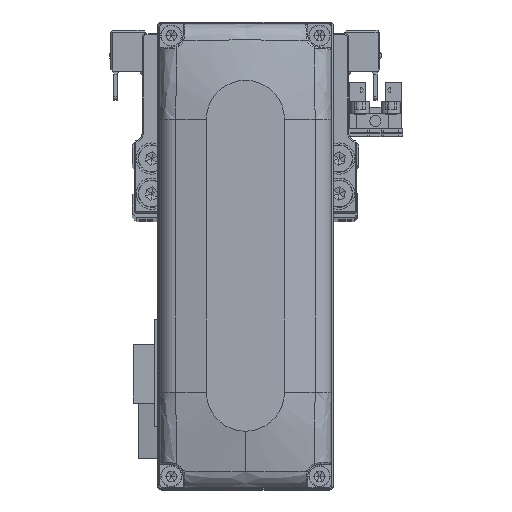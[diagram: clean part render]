
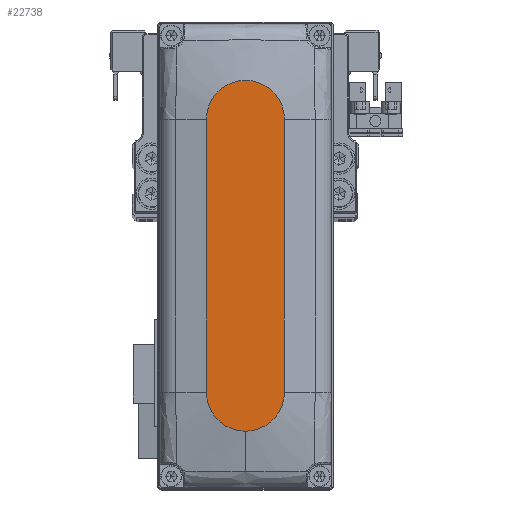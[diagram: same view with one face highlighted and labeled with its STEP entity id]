
A CAD part, top view. The second image highlights one B-rep face of the part: STEP entity #22738.
In plain terms, the highlighted planar face has unit normal (0, 0, 1).
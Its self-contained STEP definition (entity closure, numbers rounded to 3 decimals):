
#1145 = CARTESIAN_POINT ( 'NONE',  ( 45., 0., 28. ) ) ;
#1456 = DIRECTION ( 'NONE',  ( 1., 0., 0. ) ) ;
#2386 = VERTEX_POINT ( 'NONE', #1145 ) ;
#2416 = EDGE_CURVE ( 'NONE', #33428, #38752, #22647, .T. ) ;
#3073 = VERTEX_POINT ( 'NONE', #15283 ) ;
#3219 = CIRCLE ( 'NONE', #25265, 10. ) ;
#3779 = CARTESIAN_POINT ( 'NONE',  ( -35., 10., 28. ) ) ;
#4597 = EDGE_CURVE ( 'NONE', #3073, #2386, #3219, .T. ) ;
#5027 = ORIENTED_EDGE ( 'NONE', *, *, #16543, .T. ) ;
#5452 = AXIS2_PLACEMENT_3D ( 'NONE', #11823, #23846, #35835 ) ;
#6112 = CARTESIAN_POINT ( 'NONE',  ( -35., -10., 28. ) ) ;
#6562 = EDGE_CURVE ( 'NONE', #2386, #33428, #8976, .T. ) ;
#7670 = DIRECTION ( 'NONE',  ( -1., 0., 0. ) ) ;
#8976 = CIRCLE ( 'NONE', #30985, 10. ) ;
#10343 = CIRCLE ( 'NONE', #32361, 10. ) ;
#10430 = DIRECTION ( 'NONE',  ( 1., 0., 0. ) ) ;
#10739 = VECTOR ( 'NONE', #7670, 1000. ) ;
#11823 = CARTESIAN_POINT ( 'NONE',  ( 0., 0., 28. ) ) ;
#13193 = CARTESIAN_POINT ( 'NONE',  ( 35., 0., 28. ) ) ;
#15283 = CARTESIAN_POINT ( 'NONE',  ( 35., -10., 28. ) ) ;
#16467 = CARTESIAN_POINT ( 'NONE',  ( 35., 0., 28. ) ) ;
#16543 = EDGE_CURVE ( 'NONE', #25673, #3073, #33100, .T. ) ;
#17197 = ORIENTED_EDGE ( 'NONE', *, *, #6562, .T. ) ;
#18137 = DIRECTION ( 'NONE',  ( 1., 0., 0. ) ) ;
#18741 = CARTESIAN_POINT ( 'NONE',  ( 35., 10., 28. ) ) ;
#20590 = EDGE_CURVE ( 'NONE', #38752, #25673, #10343, .T. ) ;
#22647 = LINE ( 'NONE', #34637, #10739 ) ;
#22738 = ADVANCED_FACE ( 'NONE', ( #26798 ), #38815, .T. ) ;
#23846 = DIRECTION ( 'NONE',  ( 0., 0., 1. ) ) ;
#25221 = DIRECTION ( 'NONE',  ( 0., 0., 1. ) ) ;
#25265 = AXIS2_PLACEMENT_3D ( 'NONE', #16467, #28466, #1456 ) ;
#25417 = CARTESIAN_POINT ( 'NONE',  ( -35., 0., 28. ) ) ;
#25673 = VERTEX_POINT ( 'NONE', #33531 ) ;
#25799 = VECTOR ( 'NONE', #18137, 1000. ) ;
#26798 = FACE_OUTER_BOUND ( 'NONE', #30836, .T. ) ;
#28466 = DIRECTION ( 'NONE',  ( 0., 0., 1. ) ) ;
#30365 = ORIENTED_EDGE ( 'NONE', *, *, #2416, .T. ) ;
#30836 = EDGE_LOOP ( 'NONE', ( #30365, #35557, #5027, #31576, #17197 ) ) ;
#30985 = AXIS2_PLACEMENT_3D ( 'NONE', #13193, #25221, #37233 ) ;
#31576 = ORIENTED_EDGE ( 'NONE', *, *, #4597, .T. ) ;
#32361 = AXIS2_PLACEMENT_3D ( 'NONE', #25417, #37425, #10430 ) ;
#33100 = LINE ( 'NONE', #6112, #25799 ) ;
#33428 = VERTEX_POINT ( 'NONE', #18741 ) ;
#33531 = CARTESIAN_POINT ( 'NONE',  ( -35., -10., 28. ) ) ;
#34637 = CARTESIAN_POINT ( 'NONE',  ( -35., 10., 28. ) ) ;
#35557 = ORIENTED_EDGE ( 'NONE', *, *, #20590, .T. ) ;
#35835 = DIRECTION ( 'NONE',  ( 1., 0., 0. ) ) ;
#37233 = DIRECTION ( 'NONE',  ( 1., 0., 0. ) ) ;
#37425 = DIRECTION ( 'NONE',  ( 0., 0., 1. ) ) ;
#38752 = VERTEX_POINT ( 'NONE', #3779 ) ;
#38815 = PLANE ( 'NONE',  #5452 ) ;
